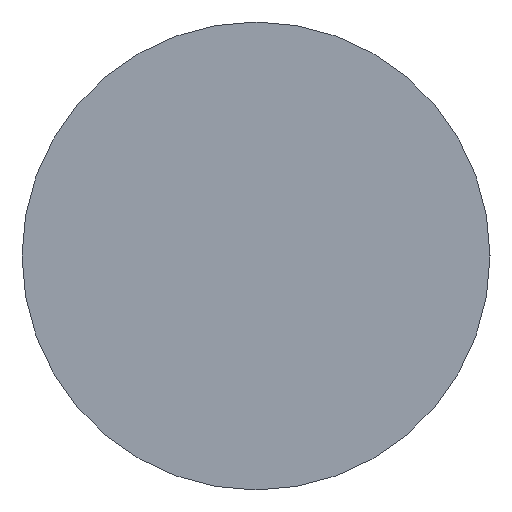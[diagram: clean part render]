
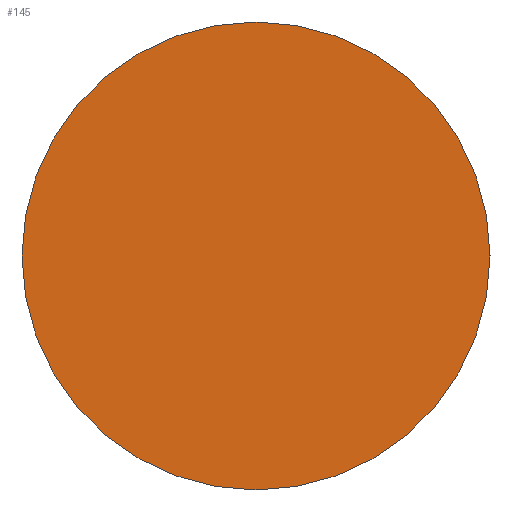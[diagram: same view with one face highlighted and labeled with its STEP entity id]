
A CAD part, left-side view. The second image highlights one B-rep face of the part: STEP entity #145.
In plain terms, the highlighted planar face has unit normal (-1, 0, 0).
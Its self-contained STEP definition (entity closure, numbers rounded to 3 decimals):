
#6 = CARTESIAN_POINT ( 'NONE',  ( 0., 7., 0. ) ) ;
#37 = CARTESIAN_POINT ( 'NONE',  ( 0., 0., 0. ) ) ;
#51 = AXIS2_PLACEMENT_3D ( 'NONE', #37, #250, #136 ) ;
#63 = EDGE_LOOP ( 'NONE', ( #151, #95 ) ) ;
#65 = DIRECTION ( 'NONE',  ( 0., 1., 0. ) ) ;
#70 = AXIS2_PLACEMENT_3D ( 'NONE', #98, #107, #65 ) ;
#84 = CARTESIAN_POINT ( 'NONE',  ( 0., -7., 0. ) ) ;
#95 = ORIENTED_EDGE ( 'NONE', *, *, #206, .F. ) ;
#98 = CARTESIAN_POINT ( 'NONE',  ( 0., 0., 0. ) ) ;
#107 = DIRECTION ( 'NONE',  ( 1., 0., 0. ) ) ;
#136 = DIRECTION ( 'NONE',  ( 0., 1., 0. ) ) ;
#141 = CIRCLE ( 'NONE', #51, 7. ) ;
#145 = ADVANCED_FACE ( 'NONE', ( #211 ), #253, .T. ) ;
#151 = ORIENTED_EDGE ( 'NONE', *, *, #240, .F. ) ;
#154 = DIRECTION ( 'NONE',  ( -1., 0., 0. ) ) ;
#163 = DIRECTION ( 'NONE',  ( 0., -1., 0. ) ) ;
#176 = CARTESIAN_POINT ( 'NONE',  ( 0., 0., 0. ) ) ;
#202 = CIRCLE ( 'NONE', #70, 7. ) ;
#206 = EDGE_CURVE ( 'NONE', #259, #229, #202, .T. ) ;
#211 = FACE_OUTER_BOUND ( 'NONE', #63, .T. ) ;
#229 = VERTEX_POINT ( 'NONE', #6 ) ;
#230 = AXIS2_PLACEMENT_3D ( 'NONE', #176, #154, #163 ) ;
#240 = EDGE_CURVE ( 'NONE', #229, #259, #141, .T. ) ;
#250 = DIRECTION ( 'NONE',  ( 1., 0., 0. ) ) ;
#253 = PLANE ( 'NONE',  #230 ) ;
#259 = VERTEX_POINT ( 'NONE', #84 ) ;
